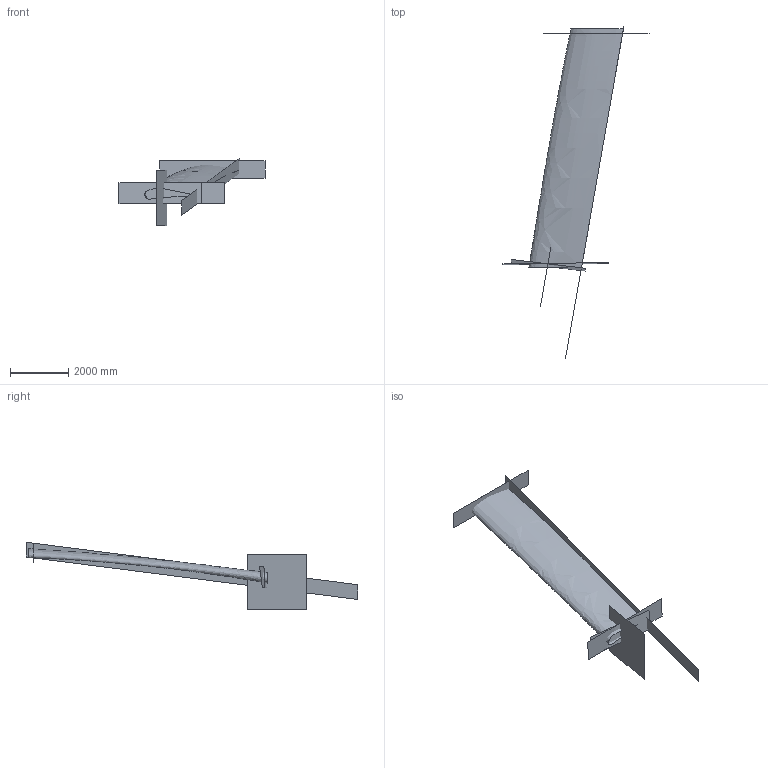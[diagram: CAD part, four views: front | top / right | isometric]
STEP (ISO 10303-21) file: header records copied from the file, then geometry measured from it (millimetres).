
FILE_DESCRIPTION((''),'2;1');
FILE_NAME('','2022-02-22T00:29:29',(''),(''),'','CADfix','');
FILE_SCHEMA(('AUTOMOTIVE_DESIGN { 1 0 10303 214 1 1 1 1 }'));
Length unit declared in the file: inch
Bounding box: 5023.97 x 11420.69 x 2319.34 mm (x, y, z)
Surface area: 48263628.6 mm2 (no closed solid volume)
Topology: 0 solids, 0 shells, 6 faces, 24 edges, 24 vertices
Faces by surface type: bspline 6
Entity records: 17363 total; most frequent: CARTESIAN_POINT 17338, B_SPLINE_SURFACE_WITH_KNOTS 6, DIMENSIONAL_EXPONENTS 2, PLANE_ANGLE_MEASURE_WITH_UNIT 1, LENGTH_MEASURE_WITH_UNIT 1, UNCERTAINTY_MEASURE_WITH_UNIT 1, GEOMETRIC_SET 1, GEOMETRICALLY_BOUNDED_SURFACE_SHAPE_REPRESENTATION 1
